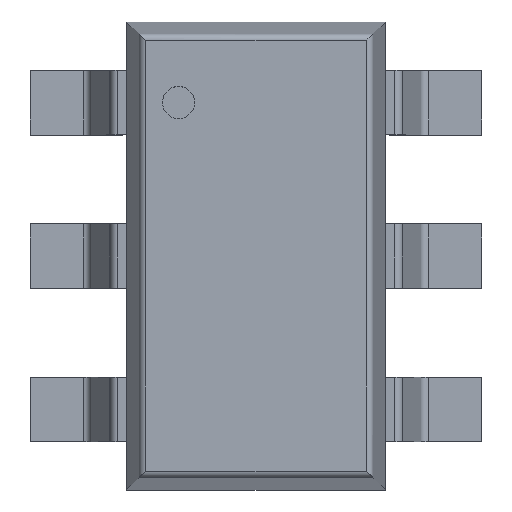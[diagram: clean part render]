
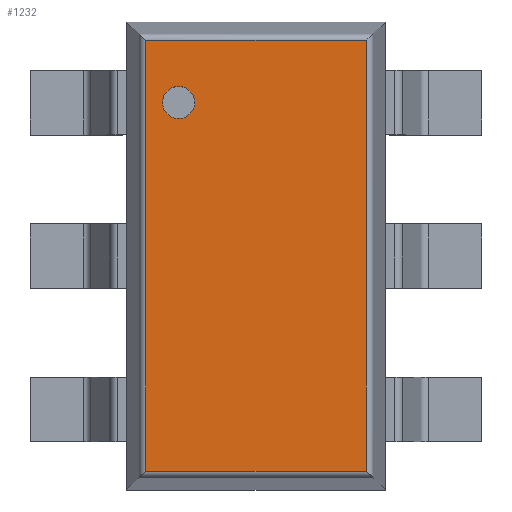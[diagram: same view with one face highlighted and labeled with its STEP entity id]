
A CAD part, top view. The second image highlights one B-rep face of the part: STEP entity #1232.
In plain terms, the highlighted planar face has unit normal (0, 0, 1).
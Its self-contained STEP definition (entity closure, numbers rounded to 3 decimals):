
#829 = CYLINDRICAL_SURFACE('',#830,0.04);
#830 = AXIS2_PLACEMENT_3D('',#831,#832,#833);
#831 = CARTESIAN_POINT('',(-0.684,-1.37,1.36));
#832 = DIRECTION('',(0.,1.,0.));
#833 = DIRECTION('',(-0.993,0.,0.117));
#971 = CYLINDRICAL_SURFACE('',#972,0.04);
#972 = AXIS2_PLACEMENT_3D('',#973,#974,#975);
#973 = CARTESIAN_POINT('',(-0.72,-1.334,1.36));
#974 = DIRECTION('',(1.,0.,0.));
#975 = DIRECTION('',(0.,-0.993,0.117));
#987 = VERTEX_POINT('',#988);
#988 = CARTESIAN_POINT('',(-0.684,-1.334,1.4));
#1022 = EDGE_CURVE('',#987,#1023,#1025,.T.);
#1023 = VERTEX_POINT('',#1024);
#1024 = CARTESIAN_POINT('',(-0.684,1.334,1.4));
#1025 = SURFACE_CURVE('',#1026,(#1030,#1037),.PCURVE_S1.);
#1026 = LINE('',#1027,#1028);
#1027 = CARTESIAN_POINT('',(-0.684,-1.37,1.4));
#1028 = VECTOR('',#1029,1.);
#1029 = DIRECTION('',(0.,1.,0.));
#1030 = PCURVE('',#829,#1031);
#1031 = DEFINITIONAL_REPRESENTATION('',(#1032),#1036);
#1032 = LINE('',#1033,#1034);
#1033 = CARTESIAN_POINT('',(1.454,0.));
#1034 = VECTOR('',#1035,1.);
#1035 = DIRECTION('',(0.,1.));
#1036 = ( GEOMETRIC_REPRESENTATION_CONTEXT(2) 
PARAMETRIC_REPRESENTATION_CONTEXT() REPRESENTATION_CONTEXT('2D SPACE',''
  ) );
#1037 = PCURVE('',#1038,#1043);
#1038 = PLANE('',#1039);
#1039 = AXIS2_PLACEMENT_3D('',#1040,#1041,#1042);
#1040 = CARTESIAN_POINT('',(-0.8,-1.45,1.4));
#1041 = DIRECTION('',(0.,0.,1.));
#1042 = DIRECTION('',(1.,0.,0.));
#1043 = DEFINITIONAL_REPRESENTATION('',(#1044),#1048);
#1044 = LINE('',#1045,#1046);
#1045 = CARTESIAN_POINT('',(0.116,0.08));
#1046 = VECTOR('',#1047,1.);
#1047 = DIRECTION('',(0.,1.));
#1048 = ( GEOMETRIC_REPRESENTATION_CONTEXT(2) 
PARAMETRIC_REPRESENTATION_CONTEXT() REPRESENTATION_CONTEXT('2D SPACE',''
  ) );
#1071 = CYLINDRICAL_SURFACE('',#1072,0.04);
#1072 = AXIS2_PLACEMENT_3D('',#1073,#1074,#1075);
#1073 = CARTESIAN_POINT('',(-0.72,1.334,1.36));
#1074 = DIRECTION('',(1.,0.,0.));
#1075 = DIRECTION('',(0.,0.,1.));
#1159 = CYLINDRICAL_SURFACE('',#1160,0.04);
#1160 = AXIS2_PLACEMENT_3D('',#1161,#1162,#1163);
#1161 = CARTESIAN_POINT('',(0.684,-1.37,1.36));
#1162 = DIRECTION('',(0.,1.,0.));
#1163 = DIRECTION('',(0.,0.,1.));
#1175 = EDGE_CURVE('',#987,#1176,#1178,.T.);
#1176 = VERTEX_POINT('',#1177);
#1177 = CARTESIAN_POINT('',(0.684,-1.334,1.4));
#1178 = SURFACE_CURVE('',#1179,(#1183,#1190),.PCURVE_S1.);
#1179 = LINE('',#1180,#1181);
#1180 = CARTESIAN_POINT('',(-0.72,-1.334,1.4));
#1181 = VECTOR('',#1182,1.);
#1182 = DIRECTION('',(1.,0.,0.));
#1183 = PCURVE('',#971,#1184);
#1184 = DEFINITIONAL_REPRESENTATION('',(#1185),#1189);
#1185 = LINE('',#1186,#1187);
#1186 = CARTESIAN_POINT('',(-1.454,0.));
#1187 = VECTOR('',#1188,1.);
#1188 = DIRECTION('',(-0.,1.));
#1189 = ( GEOMETRIC_REPRESENTATION_CONTEXT(2) 
PARAMETRIC_REPRESENTATION_CONTEXT() REPRESENTATION_CONTEXT('2D SPACE',''
  ) );
#1190 = PCURVE('',#1038,#1191);
#1191 = DEFINITIONAL_REPRESENTATION('',(#1192),#1196);
#1192 = LINE('',#1193,#1194);
#1193 = CARTESIAN_POINT('',(0.08,0.116));
#1194 = VECTOR('',#1195,1.);
#1195 = DIRECTION('',(1.,0.));
#1196 = ( GEOMETRIC_REPRESENTATION_CONTEXT(2) 
PARAMETRIC_REPRESENTATION_CONTEXT() REPRESENTATION_CONTEXT('2D SPACE',''
  ) );
#1232 = ADVANCED_FACE('',(#1233,#1281),#1038,.T.);
#1233 = FACE_BOUND('',#1234,.T.);
#1234 = EDGE_LOOP('',(#1235,#1236,#1237,#1260));
#1235 = ORIENTED_EDGE('',*,*,#1022,.F.);
#1236 = ORIENTED_EDGE('',*,*,#1175,.T.);
#1237 = ORIENTED_EDGE('',*,*,#1238,.T.);
#1238 = EDGE_CURVE('',#1176,#1239,#1241,.T.);
#1239 = VERTEX_POINT('',#1240);
#1240 = CARTESIAN_POINT('',(0.684,1.334,1.4));
#1241 = SURFACE_CURVE('',#1242,(#1246,#1253),.PCURVE_S1.);
#1242 = LINE('',#1243,#1244);
#1243 = CARTESIAN_POINT('',(0.684,-1.37,1.4));
#1244 = VECTOR('',#1245,1.);
#1245 = DIRECTION('',(0.,1.,0.));
#1246 = PCURVE('',#1038,#1247);
#1247 = DEFINITIONAL_REPRESENTATION('',(#1248),#1252);
#1248 = LINE('',#1249,#1250);
#1249 = CARTESIAN_POINT('',(1.484,0.08));
#1250 = VECTOR('',#1251,1.);
#1251 = DIRECTION('',(0.,1.));
#1252 = ( GEOMETRIC_REPRESENTATION_CONTEXT(2) 
PARAMETRIC_REPRESENTATION_CONTEXT() REPRESENTATION_CONTEXT('2D SPACE',''
  ) );
#1253 = PCURVE('',#1159,#1254);
#1254 = DEFINITIONAL_REPRESENTATION('',(#1255),#1259);
#1255 = LINE('',#1256,#1257);
#1256 = CARTESIAN_POINT('',(0.,0.));
#1257 = VECTOR('',#1258,1.);
#1258 = DIRECTION('',(0.,1.));
#1259 = ( GEOMETRIC_REPRESENTATION_CONTEXT(2) 
PARAMETRIC_REPRESENTATION_CONTEXT() REPRESENTATION_CONTEXT('2D SPACE',''
  ) );
#1260 = ORIENTED_EDGE('',*,*,#1261,.F.);
#1261 = EDGE_CURVE('',#1023,#1239,#1262,.T.);
#1262 = SURFACE_CURVE('',#1263,(#1267,#1274),.PCURVE_S1.);
#1263 = LINE('',#1264,#1265);
#1264 = CARTESIAN_POINT('',(-0.72,1.334,1.4));
#1265 = VECTOR('',#1266,1.);
#1266 = DIRECTION('',(1.,0.,0.));
#1267 = PCURVE('',#1038,#1268);
#1268 = DEFINITIONAL_REPRESENTATION('',(#1269),#1273);
#1269 = LINE('',#1270,#1271);
#1270 = CARTESIAN_POINT('',(0.08,2.784));
#1271 = VECTOR('',#1272,1.);
#1272 = DIRECTION('',(1.,0.));
#1273 = ( GEOMETRIC_REPRESENTATION_CONTEXT(2) 
PARAMETRIC_REPRESENTATION_CONTEXT() REPRESENTATION_CONTEXT('2D SPACE',''
  ) );
#1274 = PCURVE('',#1071,#1275);
#1275 = DEFINITIONAL_REPRESENTATION('',(#1276),#1280);
#1276 = LINE('',#1277,#1278);
#1277 = CARTESIAN_POINT('',(-0.,0.));
#1278 = VECTOR('',#1279,1.);
#1279 = DIRECTION('',(-0.,1.));
#1280 = ( GEOMETRIC_REPRESENTATION_CONTEXT(2) 
PARAMETRIC_REPRESENTATION_CONTEXT() REPRESENTATION_CONTEXT('2D SPACE',''
  ) );
#1281 = FACE_BOUND('',#1282,.T.);
#1282 = EDGE_LOOP('',(#1283));
#1283 = ORIENTED_EDGE('',*,*,#1284,.F.);
#1284 = EDGE_CURVE('',#1285,#1285,#1287,.T.);
#1285 = VERTEX_POINT('',#1286);
#1286 = CARTESIAN_POINT('',(-0.38,0.95,1.4));
#1287 = SURFACE_CURVE('',#1288,(#1293,#1300),.PCURVE_S1.);
#1288 = CIRCLE('',#1289,0.1);
#1289 = AXIS2_PLACEMENT_3D('',#1290,#1291,#1292);
#1290 = CARTESIAN_POINT('',(-0.48,0.95,1.4));
#1291 = DIRECTION('',(0.,0.,1.));
#1292 = DIRECTION('',(1.,0.,0.));
#1293 = PCURVE('',#1038,#1294);
#1294 = DEFINITIONAL_REPRESENTATION('',(#1295),#1299);
#1295 = CIRCLE('',#1296,0.1);
#1296 = AXIS2_PLACEMENT_2D('',#1297,#1298);
#1297 = CARTESIAN_POINT('',(0.32,2.4));
#1298 = DIRECTION('',(1.,0.));
#1299 = ( GEOMETRIC_REPRESENTATION_CONTEXT(2) 
PARAMETRIC_REPRESENTATION_CONTEXT() REPRESENTATION_CONTEXT('2D SPACE',''
  ) );
#1300 = PCURVE('',#1301,#1306);
#1301 = CYLINDRICAL_SURFACE('',#1302,0.1);
#1302 = AXIS2_PLACEMENT_3D('',#1303,#1304,#1305);
#1303 = CARTESIAN_POINT('',(-0.48,0.95,1.26));
#1304 = DIRECTION('',(0.,0.,1.));
#1305 = DIRECTION('',(1.,0.,0.));
#1306 = DEFINITIONAL_REPRESENTATION('',(#1307),#1311);
#1307 = LINE('',#1308,#1309);
#1308 = CARTESIAN_POINT('',(0.,0.14));
#1309 = VECTOR('',#1310,1.);
#1310 = DIRECTION('',(1.,0.));
#1311 = ( GEOMETRIC_REPRESENTATION_CONTEXT(2) 
PARAMETRIC_REPRESENTATION_CONTEXT() REPRESENTATION_CONTEXT('2D SPACE',''
  ) );
